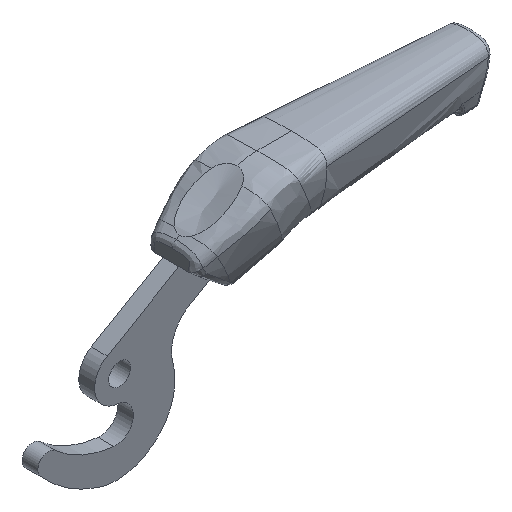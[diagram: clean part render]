
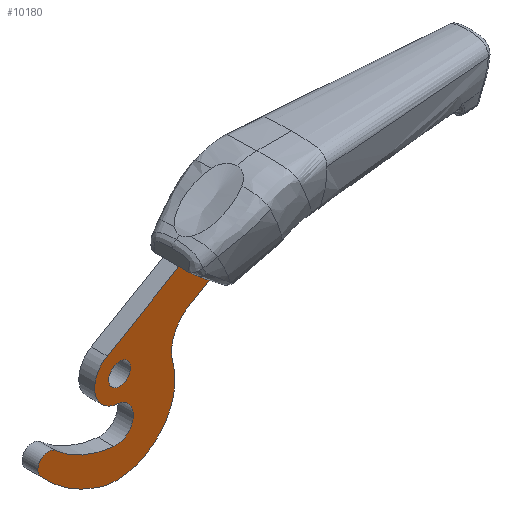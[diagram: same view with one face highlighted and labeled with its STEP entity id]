
A CAD part, isometric view. The second image highlights one B-rep face of the part: STEP entity #10180.
In plain terms, the highlighted planar face has unit normal (0, -1, 0).
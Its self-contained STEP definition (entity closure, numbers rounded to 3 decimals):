
#10040=CARTESIAN_POINT('',(6.695,-3.,-36.002));
#10041=DIRECTION('',(-0.393,0.,-0.92));
#10042=DIRECTION('',(0.,-1.,0.));
#10043=AXIS2_PLACEMENT_3D('',#10040,#10042,#10041);
#10044=PLANE('',#10043);
#10045=CARTESIAN_POINT('',(51.066,-3.,-3.205));
#10046=VERTEX_POINT('',#10045);
#10047=CARTESIAN_POINT('',(25.411,-3.,-2.309));
#10048=VERTEX_POINT('',#10047);
#10049=CARTESIAN_POINT('',(51.066,-3.,-3.205));
#10050=DIRECTION('',(-0.999,0.,0.035));
#10051=VECTOR('',#10050,25.671);
#10052=LINE('',#10049,#10051);
#10053=EDGE_CURVE('',#10046,#10048,#10052,.T.);
#10054=ORIENTED_EDGE('E150',*,*,#10053,.T.);
#10055=CARTESIAN_POINT('',(20.062,-3.,-3.642));
#10056=VERTEX_POINT('',#10055);
#10057=CARTESIAN_POINT('',(25.062,-3.,-12.303));
#10058=DIRECTION('',(0.035,0.,0.999));
#10059=DIRECTION('',(0.,-1.,0.));
#10060=AXIS2_PLACEMENT_3D('',#10057,#10059,#10058);
#10061=CIRCLE('',#10060,10.);
#10062=EDGE_CURVE('',#10048,#10056,#10061,.T.);
#10063=ORIENTED_EDGE('E151',*,*,#10062,.T.);
#10064=CARTESIAN_POINT('',(-27.28,-3.,-30.975));
#10065=VERTEX_POINT('',#10064);
#10066=CARTESIAN_POINT('',(20.062,-3.,-3.642));
#10067=DIRECTION('',(-0.866,0.,-0.5));
#10068=VECTOR('',#10067,54.665);
#10069=LINE('',#10066,#10068);
#10070=EDGE_CURVE('',#10056,#10065,#10069,.T.);
#10071=ORIENTED_EDGE('E152',*,*,#10070,.T.);
#10072=CARTESIAN_POINT('',(-23.389,-3.,-48.66));
#10073=VERTEX_POINT('',#10072);
#10074=CARTESIAN_POINT('',(-22.531,-3.,-39.2));
#10075=DIRECTION('',(-0.5,0.,0.866));
#10076=DIRECTION('',(0.,-1.,0.));
#10077=AXIS2_PLACEMENT_3D('',#10074,#10076,#10075);
#10078=CIRCLE('',#10077,9.498);
#10079=EDGE_CURVE('',#10065,#10073,#10078,.T.);
#10080=ORIENTED_EDGE('E153',*,*,#10079,.T.);
#10081=CARTESIAN_POINT('',(-24.689,-3.,-61.989));
#10082=VERTEX_POINT('',#10081);
#10083=CARTESIAN_POINT('',(-23.994,-3.,-55.329));
#10084=DIRECTION('',(0.09,0.,0.996));
#10085=DIRECTION('',(0.,1.,0.));
#10086=AXIS2_PLACEMENT_3D('',#10083,#10085,#10084);
#10087=CIRCLE('',#10086,6.696);
#10088=EDGE_CURVE('',#10073,#10082,#10087,.T.);
#10089=ORIENTED_EDGE('E154',*,*,#10088,.T.);
#10090=CARTESIAN_POINT('',(-46.939,-3.,-52.216));
#10091=VERTEX_POINT('',#10090);
#10092=CARTESIAN_POINT('',(-20.555,-3.,-22.361));
#10093=DIRECTION('',(-0.104,0.,-0.995));
#10094=DIRECTION('',(0.,1.,0.));
#10095=AXIS2_PLACEMENT_3D('',#10092,#10094,#10093);
#10096=CIRCLE('',#10095,39.843);
#10097=EDGE_CURVE('',#10082,#10091,#10096,.T.);
#10098=ORIENTED_EDGE('E155',*,*,#10097,.T.);
#10099=CARTESIAN_POINT('',(-52.602,-3.,-57.842));
#10100=VERTEX_POINT('',#10099);
#10101=CARTESIAN_POINT('',(-49.588,-3.,-55.213));
#10102=DIRECTION('',(0.662,0.,0.749));
#10103=DIRECTION('',(0.,-1.,0.));
#10104=AXIS2_PLACEMENT_3D('',#10101,#10103,#10102);
#10105=CIRCLE('',#10104,4.);
#10106=EDGE_CURVE('',#10091,#10100,#10105,.T.);
#10107=ORIENTED_EDGE('E156',*,*,#10106,.T.);
#10108=CARTESIAN_POINT('',(-30.701,-3.,-72.477));
#10109=VERTEX_POINT('',#10108);
#10110=CARTESIAN_POINT('',(-14.616,-3.,-24.701));
#10111=DIRECTION('',(-0.754,0.,-0.657));
#10112=DIRECTION('',(0.,-1.,0.));
#10113=AXIS2_PLACEMENT_3D('',#10110,#10112,#10111);
#10114=CIRCLE('',#10113,50.411);
#10115=EDGE_CURVE('',#10100,#10109,#10114,.T.);
#10116=ORIENTED_EDGE('E157',*,*,#10115,.T.);
#10117=CARTESIAN_POINT('',(-2.317,-3.,-45.559));
#10118=VERTEX_POINT('',#10117);
#10119=CARTESIAN_POINT('',(-23.639,-3.,-51.5));
#10120=DIRECTION('',(-0.319,0.,-0.948));
#10121=DIRECTION('',(0.,-1.,0.));
#10122=AXIS2_PLACEMENT_3D('',#10119,#10121,#10120);
#10123=CIRCLE('',#10122,22.134);
#10124=EDGE_CURVE('',#10109,#10118,#10123,.T.);
#10125=ORIENTED_EDGE('E158',*,*,#10124,.T.);
#10126=CARTESIAN_POINT('',(4.17,-3.,-29.676));
#10127=VERTEX_POINT('',#10126);
#10128=CARTESIAN_POINT('',(11.171,-3.,-41.801));
#10129=DIRECTION('',(-0.963,0.,-0.268));
#10130=DIRECTION('',(0.,1.,0.));
#10131=AXIS2_PLACEMENT_3D('',#10128,#10130,#10129);
#10132=CIRCLE('',#10131,14.001);
#10133=EDGE_CURVE('',#10118,#10127,#10132,.T.);
#10134=ORIENTED_EDGE('E159',*,*,#10133,.T.);
#10135=CARTESIAN_POINT('',(26.48,-3.,-16.796));
#10136=VERTEX_POINT('',#10135);
#10137=CARTESIAN_POINT('',(4.17,-3.,-29.676));
#10138=DIRECTION('',(0.866,0.,0.5));
#10139=VECTOR('',#10138,25.761);
#10140=LINE('',#10137,#10139);
#10141=EDGE_CURVE('',#10127,#10136,#10140,.T.);
#10142=ORIENTED_EDGE('E160',*,*,#10141,.T.);
#10143=CARTESIAN_POINT('',(35.276,-3.,-14.152));
#10144=VERTEX_POINT('',#10143);
#10145=CARTESIAN_POINT('',(36.48,-3.,-34.116));
#10146=DIRECTION('',(-0.5,0.,0.866));
#10147=DIRECTION('',(0.,1.,0.));
#10148=AXIS2_PLACEMENT_3D('',#10145,#10147,#10146);
#10149=CIRCLE('',#10148,20.);
#10150=EDGE_CURVE('',#10136,#10144,#10149,.T.);
#10151=ORIENTED_EDGE('E161',*,*,#10150,.T.);
#10152=CARTESIAN_POINT('',(51.193,-3.,-13.192));
#10153=VERTEX_POINT('',#10152);
#10154=CARTESIAN_POINT('',(35.276,-3.,-14.152));
#10155=DIRECTION('',(0.998,0.,0.06));
#10156=VECTOR('',#10155,15.946);
#10157=LINE('',#10154,#10156);
#10158=EDGE_CURVE('',#10144,#10153,#10157,.T.);
#10159=ORIENTED_EDGE('E162',*,*,#10158,.T.);
#10160=CARTESIAN_POINT('',(50.892,-3.,-8.201));
#10161=DIRECTION('',(0.06,0.,-0.998));
#10162=DIRECTION('',(0.,-1.,0.));
#10163=AXIS2_PLACEMENT_3D('',#10160,#10162,#10161);
#10164=CIRCLE('',#10163,5.);
#10165=EDGE_CURVE('',#10153,#10046,#10164,.T.);
#10166=ORIENTED_EDGE('E163',*,*,#10165,.T.);
#10167=EDGE_LOOP('',(#10054,#10063,#10071,#10080,#10089,#10098,#10107,#10116,#10125,#10134,#10142,#10151,#10159,#10166));
#10168=FACE_OUTER_BOUND('',#10167,.T.);
#10169=CARTESIAN_POINT('',(-24.162,-3.,-43.016));
#10170=VERTEX_POINT('',#10169);
#10171=CARTESIAN_POINT('',(-22.531,-3.,-39.2));
#10172=DIRECTION('',(-0.393,0.,-0.92));
#10173=DIRECTION('',(0.,1.,0.));
#10174=AXIS2_PLACEMENT_3D('',#10171,#10173,#10172);
#10175=CIRCLE('',#10174,4.15);
#10176=EDGE_CURVE('',#10170,#10170,#10175,.T.);
#10177=ORIENTED_EDGE('E164',*,*,#10176,.T.);
#10178=EDGE_LOOP('',(#10177));
#10179=FACE_BOUND('',#10178,.T.);
#10180=ADVANCED_FACE('F55',(#10168,#10179),#10044,.T.);
